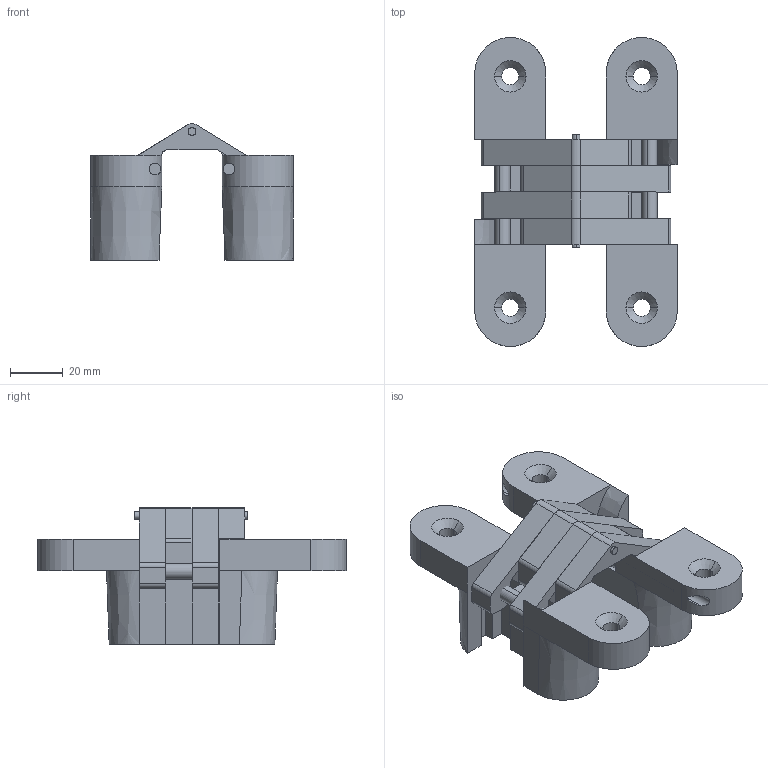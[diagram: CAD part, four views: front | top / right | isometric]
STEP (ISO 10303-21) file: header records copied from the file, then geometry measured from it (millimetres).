
FILE_DESCRIPTION (( 'STEP AP203' ), '1' );
FILE_NAME ('KH-50-5 3D ASS''Y.STEP', '2012-12-26T07:42:24', ( '' ), ( '' ), 'SwSTEP 2.0', 'SolidWorks 2010', '' );
FILE_SCHEMA (( 'CONFIG_CONTROL_DESIGN' ));
Length unit declared in the file: millimetre
Products named in the file (6): ARM; BODY; KH-50-5 3D ASS''Y; ARM PIN 1; ARM PIN; ARM PIN 2
Assembly tree (11 placements, depth 2):
  KH-50-5 3D ASS''Y
    ARM  x4
    ARM PIN 1  x2
    ARM PIN 2  x2
    BODY  x2
    ARM PIN
Bounding box: 77 x 117.5 x 51.99 mm (x, y, z)
Volume: 122521.5 mm3; surface area: 48765.6 mm2
Topology: 11 solids, 11 shells, 232 faces, 578 edges, 372 vertices
Faces by surface type: plane 124, cylinder 88, bspline 12, cone 8
Entity records: 3967 total; most frequent: CARTESIAN_POINT 911, DIRECTION 485, ORIENTED_EDGE 458, EDGE_CURVE 229, AXIS2_PLACEMENT_3D 172, VERTEX_POINT 146, LINE 141, VECTOR 141
